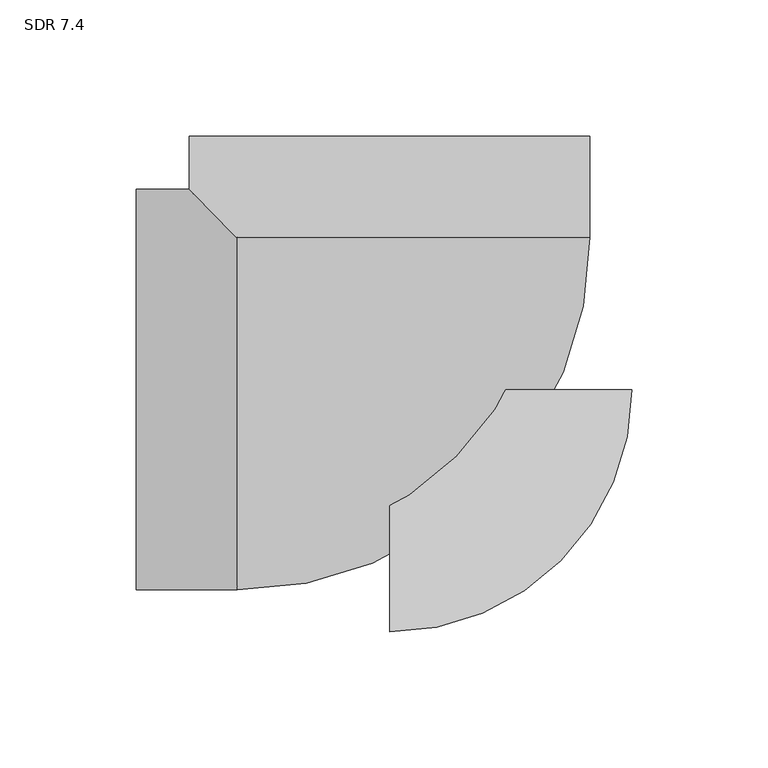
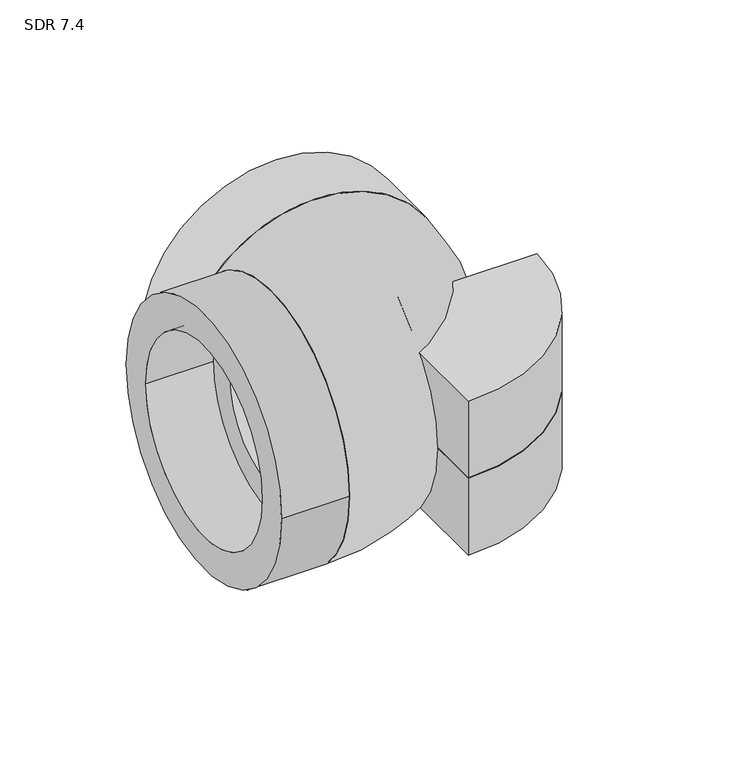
"""IFC4 building model written with IfcOpenShell, lengths in millimetres: pipe fitting geometry, Aquatherm - Elbow Socket : SDR 7.4."""

from ifc_helpers import new_model, si_unit, point, frame, origin, origin_with_axes, origin_2d, place, context, project, spatial, polyline, circle_curve, ellipse_curve, trimmed, segment, composite_curve, outline, extrude, source, transform, mapped, element, save
from ifc_brep_helpers import plane_surface, revolved_surface, advanced_brep


def sdr_7_4_cb982547(model_context):
    return source(origin(), model_context, "Body", "SolidModel", [
        extrude(outline(composite_curve([segment(polyline([(0.0, -88.9), (0.0, 0.0), (88.9, 0.0)]), True, "CONTINUOUS"), segment(trimmed(circle_curve(origin_2d(), 88.9), [point((88.9, 0.0))], [point((0.0, -88.9))], False, "CARTESIAN"), True, "CONTINUOUS")], self_intersect=False)), frame((0.0, 0.0, -44.45), z_axis=(0.0, 0.0, 1.0), x_axis=(1.0, 0.0, 0.0)), (0.0, 0.0, 1.0), 44.45),
        extrude(outline(composite_curve([segment(trimmed(circle_curve(origin_2d(), 88.9), [point((88.9, 0.0))], [point((0.0, -88.9))], False, "CARTESIAN"), True, "CONTINUOUS"), segment(polyline([(0.0, -88.9), (0.0, 0.0), (88.9, 0.0)]), True, "CONTINUOUS")], self_intersect=False)), origin_with_axes(), (0.0, 0.0, 1.0), 44.45),
        extrude(outline(composite_curve([segment(trimmed(circle_curve(origin_2d(), 73.533), [point((0.0, 73.533))], [point((0.0, -73.533))], False, "CARTESIAN"), True, "CONTINUOUS"), segment(trimmed(circle_curve(origin_2d(), 73.533), [point((0.0, -73.533))], [point((0.0, 73.533))], False, "CARTESIAN"), True, "CONTINUOUS")], self_intersect=False), holes=[composite_curve([segment(trimmed(circle_curve(origin_2d(), 54.991), [point((0.0, 54.991))], [point((0.0, -54.991))], True, "CARTESIAN"), True, "CONTINUOUS"), segment(trimmed(circle_curve(origin_2d(), 54.991), [point((0.0, -54.991))], [point((0.0, 54.991))], True, "CARTESIAN"), True, "CONTINUOUS")], self_intersect=False)]), frame((0.0, 55.88, 0.0), z_axis=(0.0, 1.0, 0.0), x_axis=(0.0, 0.0, 1.0)), (0.0, 0.0, 1.0), 37.084),
        advanced_brep(
        [(-55.88, 55.88, -47.796733), (-55.88, 55.88, 47.796733), (-55.88, -39.7157222, 0.0), (-55.88, 39.7157222, 0.0), (39.7157222, 55.88, 0.0), (-39.7157222, 55.88, 0.0)],
        [
            (0, 1, circle_curve(frame((-55.88, 0.0, 0.0), z_axis=(-1.0, 0.0, 0.0), x_axis=(0.0, 1.0, 0.0)), 73.533)),
            (1, 0),
            (2, 3, circle_curve(frame((-55.88, 0.0, 0.0), z_axis=(1.0, 0.0, 0.0), x_axis=(0.0, 1.0, 0.0)), 39.7157222)),
            (3, 2, circle_curve(frame((-55.88, 0.0, 0.0), z_axis=(1.0, 0.0, 0.0), x_axis=(0.0, 1.0, 0.0)), 39.7157222)),
            (1, 0, circle_curve(frame((0.0, 55.88, 0.0), z_axis=(0.0, 1.0, 0.0), x_axis=(-1.0, 0.0, 0.0)), 73.533)),
            (4, 5, circle_curve(frame((0.0, 55.88, 0.0), z_axis=(0.0, -1.0, 0.0), x_axis=(-1.0, 0.0, 0.0)), 39.7157222)),
            (5, 4, circle_curve(frame((0.0, 55.88, 0.0), z_axis=(0.0, -1.0, 0.0), x_axis=(-1.0, 0.0, 0.0)), 39.7157222)),
            (5, 3, circle_curve(frame((-55.88, 55.88, 0.0), z_axis=(0.0, 0.0, -1.0), x_axis=(0.0, -1.0, 0.0)), 16.1642778)),
            (2, 4, circle_curve(frame((-55.88, 55.88, 0.0), z_axis=(0.0, 0.0, 1.0), x_axis=(0.0, -1.0, 0.0)), 95.5957222)),
        ],
        [
            plane_surface(frame((-55.88, 55.88, 104.946733), z_axis=(-1.0, 0.0, 0.0), x_axis=(0.0, -1.0, 0.0))),
            plane_surface(frame((-55.88, 55.88, 104.946733), z_axis=(0.0, 1.0, 0.0), x_axis=(1.0, 0.0, 0.0))),
            revolved_surface(trimmed(ellipse_curve(frame((-55.88, 0.0, 0.0), z_axis=(1.0, 0.0, 0.0), x_axis=(0.0, 1.0, 0.0)), 73.533, 73.533), [point((-55.88, 55.88, 47.796733))], [point((-55.88, 55.88, -47.796733))], True, "CARTESIAN"), (-55.88, 55.88, 104.946733), (0.0, 0.0, -1.0)),
            revolved_surface(trimmed(ellipse_curve(frame((-55.88, 0.0, 0.0), z_axis=(-1.0, 0.0, 0.0), x_axis=(0.0, 1.0, 0.0)), 39.7157222, 39.7157222), [point((-55.88, 39.7157222, 0.0))], [point((-55.88, -39.7157222, 0.0))], True, "CARTESIAN"), (-55.88, 55.88, 104.946733), (0.0, 0.0, -1.0)),
            revolved_surface(trimmed(ellipse_curve(frame((-55.88, 0.0, 0.0), z_axis=(-1.0, 0.0, 0.0), x_axis=(0.0, 1.0, 0.0)), 39.7157222, 39.7157222), [point((-55.88, -39.7157222, 0.0))], [point((-55.88, 39.7157222, 0.0))], True, "CARTESIAN"), (-55.88, 55.88, 104.946733), (0.0, 0.0, -1.0)),
        ],
        [
            (0, [[1, 2], [3, 4]]),
            (1, [[5, -2], [6, 7]]),
            (2, [[-1, -5]]),
            (3, [[8, -3, 9, -7]]),
            (4, [[-9, -4, -8, -6]]),
        ],
    ),
        extrude(outline(composite_curve([segment(trimmed(circle_curve(origin_2d(), 73.533), [point((73.533, 0.0))], [point((-73.533, 0.0))], False, "CARTESIAN"), True, "CONTINUOUS"), segment(trimmed(circle_curve(origin_2d(), 73.533), [point((-73.533, 0.0))], [point((73.533, 0.0))], False, "CARTESIAN"), True, "CONTINUOUS")], self_intersect=False), holes=[composite_curve([segment(trimmed(circle_curve(origin_2d(), 54.991), [point((54.991, 0.0))], [point((-54.991, 0.0))], True, "CARTESIAN"), True, "CONTINUOUS"), segment(trimmed(circle_curve(origin_2d(), 54.991), [point((-54.991, 0.0))], [point((54.991, 0.0))], True, "CARTESIAN"), True, "CONTINUOUS")], self_intersect=False)]), frame((-92.964, 0.0, 0.0), z_axis=(1.0, 0.0, 0.0), x_axis=(0.0, 1.0, 0.0)), (0.0, 0.0, 1.0), 37.084),
    ])


if __name__ == "__main__":
    model = new_model("IFC4")
    model_context = context("Model", 3, world=origin())
    ifc_project = project(units=[si_unit("LENGTHUNIT", "METRE", prefix="MILLI")], contexts=[model_context])
    site = spatial("IfcSite", under=ifc_project)
    building = spatial("IfcBuilding", under=site)
    placement = place(None, origin())
    sdr_7_4_shape = sdr_7_4_cb982547(model_context)
    element("IfcPipeFitting", 1, ObjectType="Aquatherm - Elbow Socket : SDR 7.4", at=placement, inside=building, context=model_context, shape_type="MappedRepresentation", body=[
        mapped(sdr_7_4_shape, transform((0.0, 0.0, 0.0), x_axis=(1.0, 0.0, 0.0), y_axis=(0.0, 1.0, 0.0), z_axis=(0.0, 0.0, 1.0))),
    ])
    save(model, "model.ifc")
